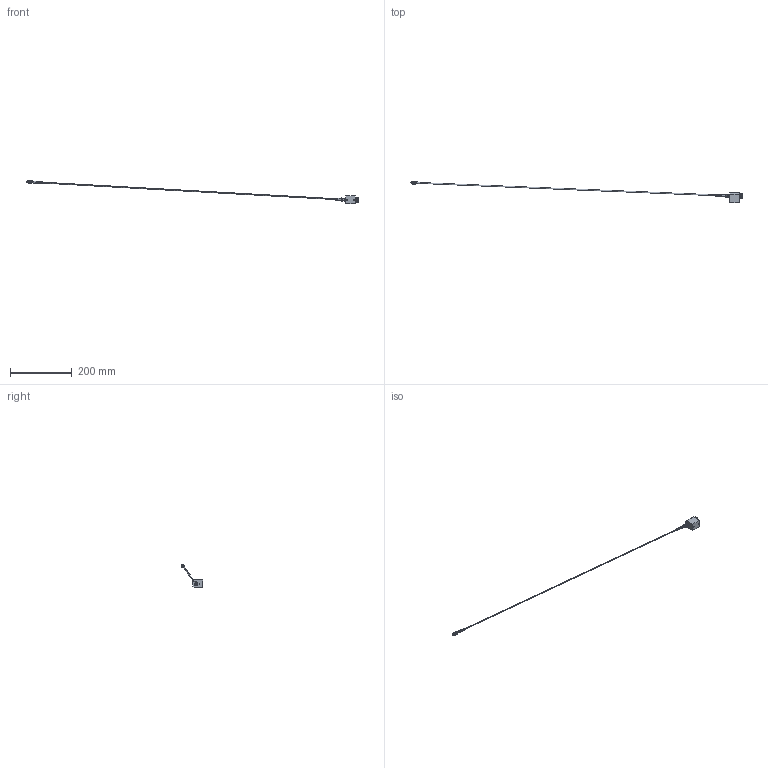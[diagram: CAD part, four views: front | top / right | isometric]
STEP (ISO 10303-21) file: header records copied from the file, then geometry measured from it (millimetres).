
FILE_DESCRIPTION (( 'STEP AP214' ), '1' );
FILE_NAME ('2022-03 - FIBER LASER ASSY.STEP', '2022-07-26T19:07:46', ( '' ), ( '' ), 'SwSTEP 2.0', 'SolidWorks 2020', '' );
FILE_SCHEMA (( 'AUTOMOTIVE_DESIGN' ));
Length unit declared in the file: millimetre
Products named in the file (8): SS4MN4; F220APC-532; 2022-03 - FIBER LASER ASSY; NE520A; FL05532-10.step; P3-460B-FC-2; SM05RR; 2020-05 - LASER HOLDER
Assembly tree (7 placements, depth 2):
  2022-03 - FIBER LASER ASSY
    2020-05 - LASER HOLDER
    FL05532-10.step
    SM05RR
    NE520A
    F220APC-532
    P3-460B-FC-2
    SS4MN4
Bounding box: 1073.88 x 69.9 x 75.5 mm (x, y, z)
Volume: 33328.9 mm3; surface area: 27153.6 mm2
Topology: 21 solids, 21 shells, 1182 faces, 4173 edges, 3163 vertices
Faces by surface type: plane 540, cylinder 501, cone 128, bspline 13
Entity records: 71047 total; most frequent: CARTESIAN_POINT 23342, ORIENTED_EDGE 8326, DIRECTION 6421, EDGE_CURVE 4163, VERTEX_POINT 3163, AXIS2_PLACEMENT_3D 2561, B_SPLINE_CURVE_WITH_KNOTS 1443, EDGE_LOOP 1440
